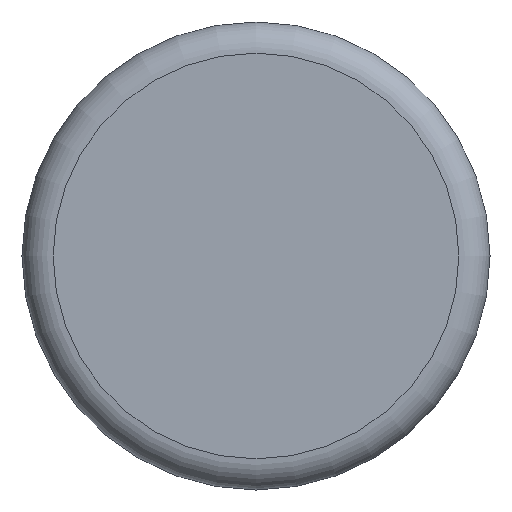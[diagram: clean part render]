
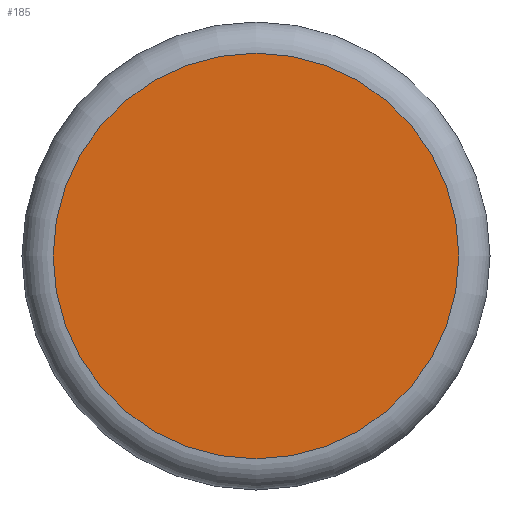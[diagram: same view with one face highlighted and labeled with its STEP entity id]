
A CAD part, left-side view. The second image highlights one B-rep face of the part: STEP entity #185.
In plain terms, the highlighted planar face has unit normal (-1, 0, 0).
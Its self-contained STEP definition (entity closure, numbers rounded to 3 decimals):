
#31=ORIENTED_EDGE('',*,*,#63,.T.);
#63=EDGE_CURVE('',#79,#79,#95,.T.);
#79=VERTEX_POINT('',#372);
#95=CIRCLE('',#257,0.65);
#111=EDGE_LOOP('',(#31));
#143=FACE_BOUND('',#111,.T.);
#175=PLANE('',#256);
#185=ADVANCED_FACE('',(#143),#175,.T.);
#256=AXIS2_PLACEMENT_3D('',#370,#295,#296);
#257=AXIS2_PLACEMENT_3D('',#371,#297,#298);
#295=DIRECTION('',(-1.,0.,0.));
#296=DIRECTION('',(0.,0.,1.));
#297=DIRECTION('',(-1.,0.,0.));
#298=DIRECTION('',(0.,0.,1.));
#370=CARTESIAN_POINT('',(-1.691,0.,0.));
#371=CARTESIAN_POINT('',(-1.691,0.,0.));
#372=CARTESIAN_POINT('',(-1.691,0.,0.65));
